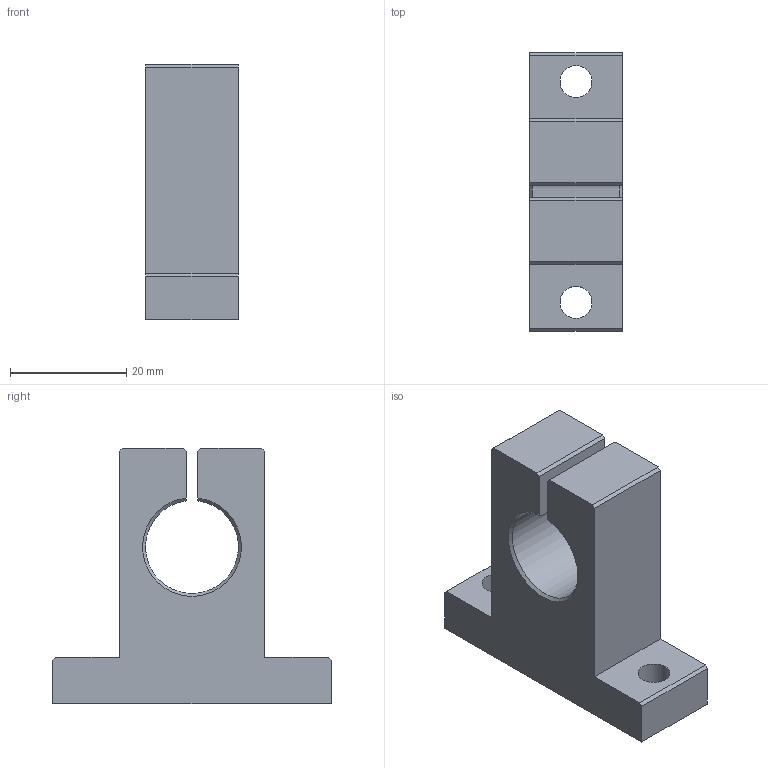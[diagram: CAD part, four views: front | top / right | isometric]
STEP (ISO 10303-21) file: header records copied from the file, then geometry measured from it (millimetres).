
FILE_DESCRIPTION(/* description */ (''),/* implementation_level */ '2;1');
FILE_NAME(/* name */ 'C:\Users\David\ownCloud\Kamp und Kötter\Artikel\Wellenführung D16\02_STEP-Dateien\Wellenhalter.stp',/* time_stamp */ '2018-06-24T15:44:01+02:00',/* author */ ('David'),/* organization */ (''),/* preprocessor_version */ 'ST-DEVELOPER v17',/* originating_system */ 'Autodesk Inventor 2019',/* authorisation */ '');
FILE_SCHEMA (('AUTOMOTIVE_DESIGN { 1 0 10303 214 3 1 1 }'));
Length unit declared in the file: millimetre
Products named in the file (1): Wellenhalter
Bounding box: 16 x 48 x 44 mm (x, y, z)
Volume: 16633.9 mm3; surface area: 6227.6 mm2
Topology: 1 solids, 1 shells, 24 faces, 68 edges, 46 vertices
Faces by surface type: plane 19, cylinder 3, cone 2
Full cylindrical faces by diameter (mm): 5.5 x2
Entity records: 821 total; most frequent: CARTESIAN_POINT 147, ORIENTED_EDGE 136, DIRECTION 124, EDGE_CURVE 68, LINE 54, VECTOR 54, VERTEX_POINT 46, AXIS2_PLACEMENT_3D 35
